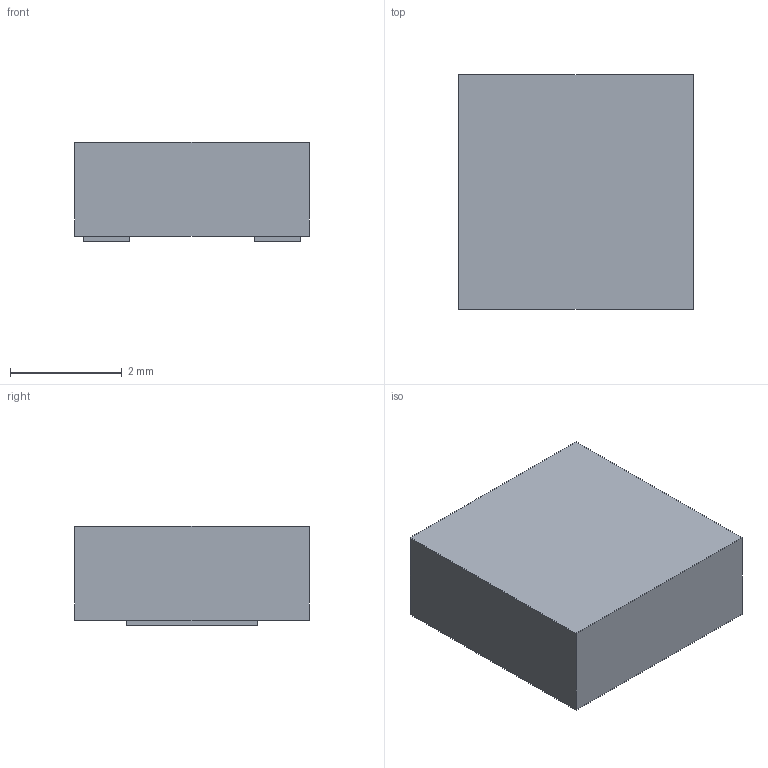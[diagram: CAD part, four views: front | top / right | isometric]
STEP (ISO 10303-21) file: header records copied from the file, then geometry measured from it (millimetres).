
FILE_DESCRIPTION(('FreeCAD Model'),'2;1');
FILE_NAME('Open CASCADE Shape Model','2026-09-21T21:53:17',('FreeCAD'),( 'FreeCAD'),'Open CASCADE STEP processor 7.8','FreeCAD','Unknown');
FILE_SCHEMA(('AUTOMOTIVE_DESIGN { 1 0 10303 214 1 1 1 1 }'));
Length unit declared in the file: millimetre
Products named in the file (1): Open CASCADE STEP translator 7.8 13
Bounding box: 4.2 x 4.2 x 1.78 mm (x, y, z)
Volume: 30.6 mm3; surface area: 74.5 mm2
Topology: 3 solids, 3 shells, 18 faces, 36 edges, 24 vertices
Faces by surface type: plane 18
Entity records: 466 total; most frequent: CARTESIAN_POINT 79, DIRECTION 74, ORIENTED_EDGE 72, EDGE_CURVE 36, LINE 36, VECTOR 36, VERTEX_POINT 24, AXIS2_PLACEMENT_3D 19
